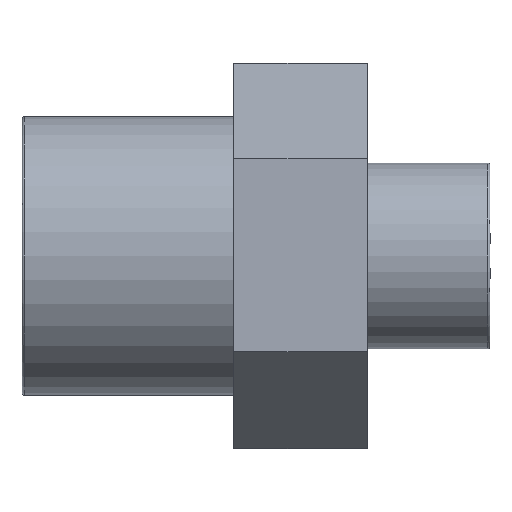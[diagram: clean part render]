
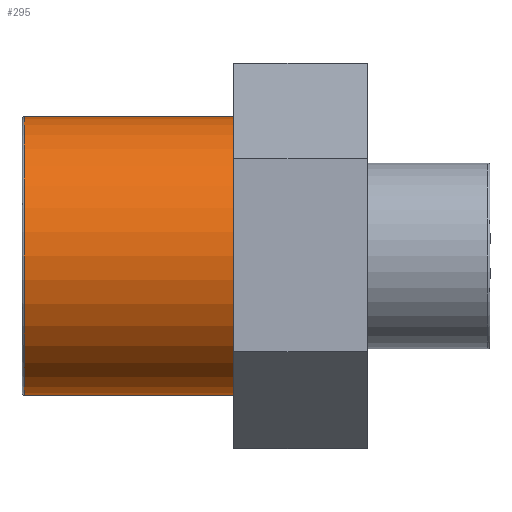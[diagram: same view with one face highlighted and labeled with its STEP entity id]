
A CAD part, front view. The second image highlights one B-rep face of the part: STEP entity #295.
In plain terms, the highlighted cylindrical face has radius 12.5 mm (diameter 25 mm), a full revolution.
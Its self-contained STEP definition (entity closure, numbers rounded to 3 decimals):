
#18=CYLINDRICAL_SURFACE('',#329,12.5);
#29=FACE_BOUND('',#99,.T.);
#45=CIRCLE('',#328,12.5);
#46=CIRCLE('',#330,12.5);
#68=FACE_OUTER_BOUND('',#98,.T.);
#98=EDGE_LOOP('',(#246));
#99=EDGE_LOOP('',(#247));
#168=VERTEX_POINT('',#494);
#169=VERTEX_POINT('',#497);
#200=EDGE_CURVE('',#168,#168,#45,.T.);
#201=EDGE_CURVE('',#169,#169,#46,.T.);
#246=ORIENTED_EDGE('',*,*,#201,.T.);
#247=ORIENTED_EDGE('',*,*,#200,.F.);
#295=ADVANCED_FACE('',(#68,#29),#18,.T.);
#328=AXIS2_PLACEMENT_3D('',#495,#408,#409);
#329=AXIS2_PLACEMENT_3D('',#496,#410,#411);
#330=AXIS2_PLACEMENT_3D('',#498,#412,#413);
#408=DIRECTION('center_axis',(-1.,0.,0.));
#409=DIRECTION('ref_axis',(0.,1.,0.));
#410=DIRECTION('center_axis',(-1.,0.,0.));
#411=DIRECTION('ref_axis',(0.,-1.,0.));
#412=DIRECTION('center_axis',(-1.,0.,0.));
#413=DIRECTION('ref_axis',(0.,0.,1.));
#494=CARTESIAN_POINT('',(-20.8,-12.5,0.));
#495=CARTESIAN_POINT('Origin',(-20.8,0.,0.));
#496=CARTESIAN_POINT('Origin',(-11.5,0.,0.));
#497=CARTESIAN_POINT('',(-2.,-12.5,0.));
#498=CARTESIAN_POINT('Origin',(-2.,0.,0.));
